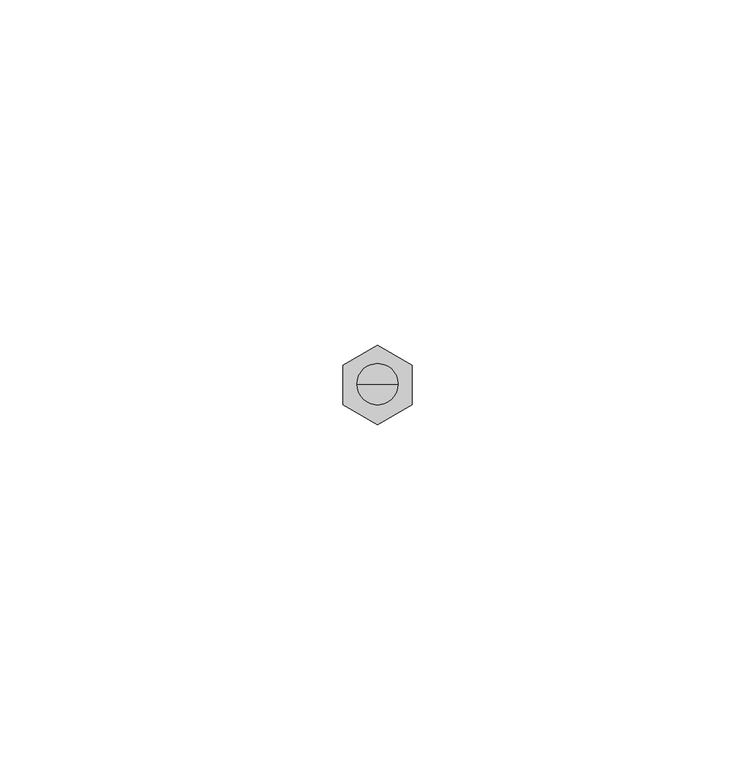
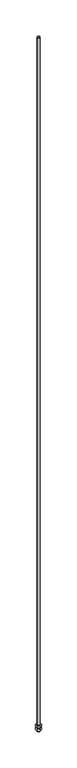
"""IFC4 building model written with IfcOpenShell, lengths in millimetres: proxy geometry, durlum_threaded_rod_M6 : durlum_threaded_rod_M6."""

from ifc_helpers import new_model, si_unit, frame, origin, origin_with_axes, place, context, project, spatial, polyline, circle_curve, outline, extrude, source, transform, mapped, element, save
from ifc_brep_helpers import plane_surface, cylinder_surface, advanced_brep


def generic_models_24e03244(model_context):
    return source(origin(), model_context, "Body", "SolidModel", [
        extrude(outline(polyline([(5.0, 3.0421914), (5.0, -2.7313113), (0.0, -5.6180626), (-5.0, -2.7313113), (-5.0, 3.0421914), (0.0, 5.9289428), (5.0, 3.0421914)])), frame((0.0, 0.0, -7.0), z_axis=(0.0, 0.0, 1.0), x_axis=(1.0, 0.0, 0.0)), (0.0, 0.0, 1.0), 5.0),
        extrude(outline(polyline([(5.0, 3.0421914), (5.0, -2.7313113), (0.0, -5.6180626), (-5.0, -2.7313113), (-5.0, 3.0421914), (0.0, 5.9289428), (5.0, 3.0421914)])), origin_with_axes(), (0.0, 0.0, 1.0), 5.0),
        advanced_brep(
        [(-3.0, 0.0, 1585.0), (3.0, 0.0, 1585.0), (3.0, 0.0, -10.0), (-3.0, 0.0, -10.0), (0.0, 0.0, 1585.0), (0.0, 0.0, -10.0)],
        [
            (0, 1, circle_curve(frame((0.0, 0.0, 1585.0), z_axis=(0.0, 0.0, -1.0), x_axis=(1.0, 0.0, 0.0)), 3.0)),
            (1, 2),
            (2, 3, circle_curve(frame((0.0, 0.0, -10.0), z_axis=(0.0, 0.0, 1.0), x_axis=(1.0, 0.0, 0.0)), 3.0)),
            (3, 0),
            (1, 0, circle_curve(frame((0.0, 0.0, 1585.0), z_axis=(0.0, 0.0, -1.0), x_axis=(1.0, 0.0, 0.0)), 3.0)),
            (3, 2, circle_curve(frame((0.0, 0.0, -10.0), z_axis=(0.0, 0.0, 1.0), x_axis=(1.0, 0.0, 0.0)), 3.0)),
            (4, 1),
            (0, 4),
            (2, 5),
            (5, 3),
        ],
        [
            cylinder_surface(frame((0.0, 0.0, -675.0), z_axis=(0.0, 0.0, 1.0), x_axis=(1.0, 0.0, 0.0)), 3.0),
            plane_surface(frame((0.0, 0.0, 1585.0), z_axis=(0.0, 0.0, 1.0), x_axis=(1.0, 0.0, 0.0))),
            plane_surface(frame((0.0, 0.0, -10.0), z_axis=(0.0, 0.0, -1.0), x_axis=(1.0, 0.0, 0.0))),
        ],
        [
            (0, [[1, 2, 3, 4]]),
            (0, [[5, -4, 6, -2]]),
            (1, [[7, -1, 8]]),
            (1, [[-8, -5, -7]]),
            (2, [[-3, 9, 10]]),
            (2, [[-6, -10, -9]]),
        ],
    ),
    ])


if __name__ == "__main__":
    model = new_model("IFC4")
    model_context = context("Model", 3, world=origin())
    ifc_project = project(units=[si_unit("LENGTHUNIT", "METRE", prefix="MILLI")], contexts=[model_context])
    site = spatial("IfcSite", under=ifc_project)
    building = spatial("IfcBuilding", under=site)
    placement = place(None, origin())
    generic_models_shape = generic_models_24e03244(model_context)
    element("IfcBuildingElementProxy", 1, Name="durlum_threaded_rod_M6 : durlum_threaded_rod_M6", ObjectType="durlum_threaded_rod_M6 : durlum_threaded_rod_M6", at=placement, inside=building, context=model_context, shape_type="MappedRepresentation", body=[
        mapped(generic_models_shape, transform((0.0, 0.0, 0.0), x_axis=(1.0, 0.0, 0.0), y_axis=(0.0, 1.0, 0.0), z_axis=(0.0, 0.0, 1.0))),
    ])
    save(model, "model.ifc")
